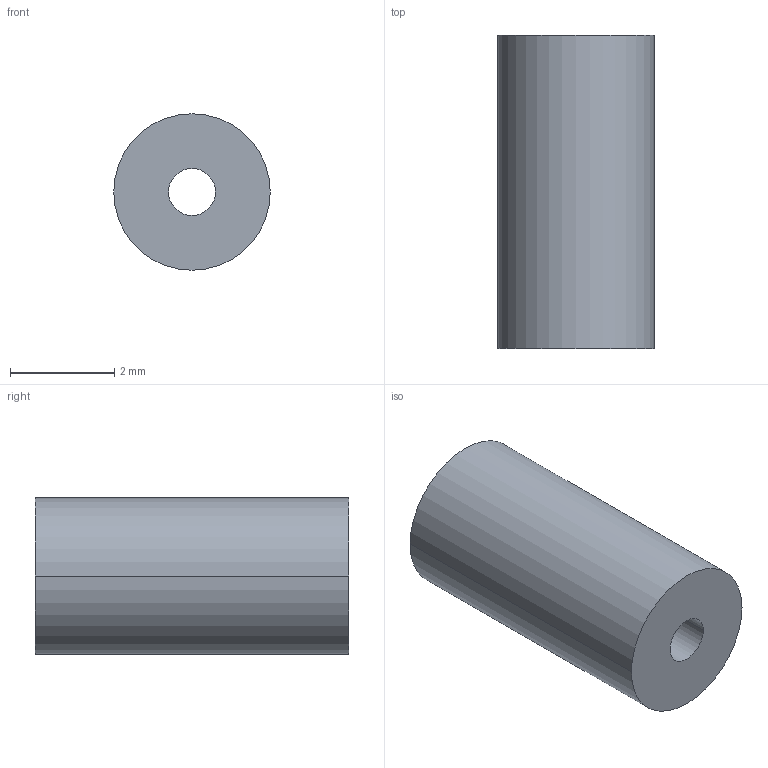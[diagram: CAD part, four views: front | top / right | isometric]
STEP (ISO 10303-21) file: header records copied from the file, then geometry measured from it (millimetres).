
FILE_DESCRIPTION (( 'STEP AP203' ), '1' );
FILE_NAME ('30800.WPP3A1.0.step', '2019-01-23T22:13:38', ( '' ), ( '' ), 'SwSTEP 2.0', 'SolidWorks 2017', '' );
FILE_SCHEMA (( 'CONFIG_CONTROL_DESIGN' ));
Length unit declared in the file: millimetre
Products named in the file (1): 30800.WPP3A1.0
Bounding box: 3 x 6 x 3 mm (x, y, z)
Volume: 37.7 mm3; surface area: 85.6 mm2
Topology: 1 solids, 1 shells, 8 faces, 16 edges, 10 vertices
Faces by surface type: cylinder 4, torus 2, plane 2
Entity records: 297 total; most frequent: DIRECTION 46, CARTESIAN_POINT 35, ORIENTED_EDGE 32, AXIS2_PLACEMENT_3D 21, EDGE_CURVE 16, CIRCLE 12, VERTEX_POINT 10, EDGE_LOOP 10
